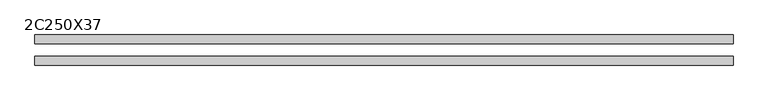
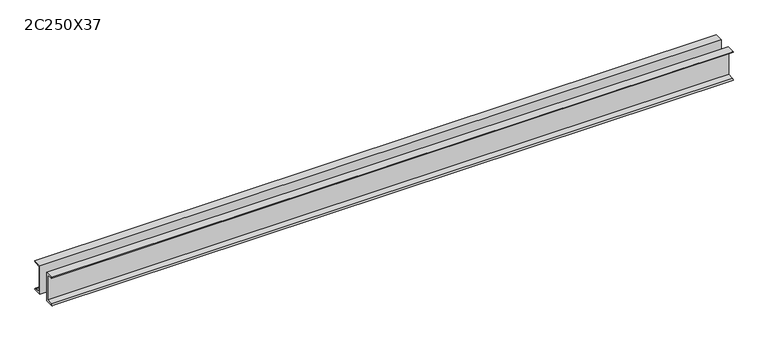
"""IFC4 building model written with IfcOpenShell, lengths in millimetres: beam geometry, Profilato a doppia C : 2C250X37."""

from ifc_helpers import new_model, si_unit, point, frame, frame_2d, origin, place, context, project, spatial, polyline, circle_curve, trimmed, segment, composite_curve, outline, extrude, source, transform, mapped, element, save


def beam_2c250x37_7c4ae191(model_context):
    return source(origin(), model_context, "Body", "SweptSolid", [
        extrude(outline(composite_curve([segment(polyline([(50.0, 127.0), (123.3, 127.0)]), True, "CONTINUOUS"), segment(trimmed(circle_curve(frame_2d((112.2, 127.0)), 11.1), [point((123.3, 127.0))], [point((112.2, 115.9))], False, "CARTESIAN"), True, "CONTINUOUS"), segment(polyline([(112.2, 115.9), (63.4, 108.1708393), (63.4, -108.1708393), (112.2, -115.9)]), True, "CONTINUOUS"), segment(trimmed(circle_curve(frame_2d((112.2, -127.0)), 11.1), [point((112.2, -115.9))], [point((123.3, -127.0))], False, "CARTESIAN"), True, "CONTINUOUS"), segment(polyline([(123.3, -127.0), (50.0, -127.0), (50.0, 127.0)]), True, "CONTINUOUS")], self_intersect=False)), frame((-2860.0, 0.0, 0.0), z_axis=(1.0, 0.0, 0.0), x_axis=(0.0, 1.0, 0.0)), (0.0, 0.0, 1.0), 5720.0),
        extrude(outline(composite_curve([segment(polyline([(-50.0, 127.0), (-50.0, -127.0), (-123.3, -127.0)]), True, "CONTINUOUS"), segment(trimmed(circle_curve(frame_2d((-112.2, -127.0)), 11.1), [point((-123.3, -127.0))], [point((-112.2, -115.9))], False, "CARTESIAN"), True, "CONTINUOUS"), segment(polyline([(-112.2, -115.9), (-63.4, -108.1708393), (-63.4, 108.1708393), (-112.2, 115.9)]), True, "CONTINUOUS"), segment(trimmed(circle_curve(frame_2d((-112.2, 127.0)), 11.1), [point((-112.2, 115.9))], [point((-123.3, 127.0))], False, "CARTESIAN"), True, "CONTINUOUS"), segment(polyline([(-123.3, 127.0), (-50.0, 127.0)]), True, "CONTINUOUS")], self_intersect=False)), frame((-2860.0, 0.0, 0.0), z_axis=(1.0, 0.0, 0.0), x_axis=(0.0, 1.0, 0.0)), (0.0, 0.0, 1.0), 5720.0),
    ])


if __name__ == "__main__":
    model = new_model("IFC4")
    model_context = context("Model", 3, world=origin())
    ifc_project = project(units=[si_unit("LENGTHUNIT", "METRE", prefix="MILLI")], contexts=[model_context])
    site = spatial("IfcSite", under=ifc_project)
    building = spatial("IfcBuilding", under=site)
    placement = place(None, origin())
    beam_2c250x37_shape = beam_2c250x37_7c4ae191(model_context)
    element("IfcBeam", 1, ObjectType="Profilato a doppia C : 2C250X37", at=placement, inside=building, context=model_context, shape_type="MappedRepresentation", body=[
        mapped(beam_2c250x37_shape, transform((0.0, 0.0, 0.0), x_axis=(1.0, 0.0, 0.0), y_axis=(0.0, 1.0, 0.0), z_axis=(0.0, 0.0, 1.0))),
    ])
    save(model, "model.ifc")
